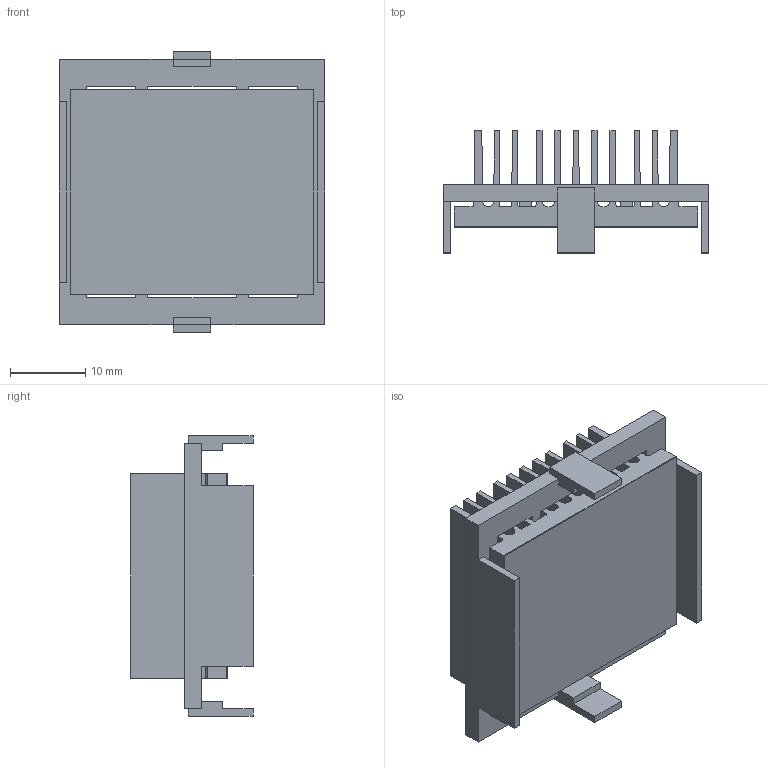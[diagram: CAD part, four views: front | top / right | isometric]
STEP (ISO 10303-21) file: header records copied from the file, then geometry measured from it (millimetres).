
FILE_DESCRIPTION (( 'STEP AP214' ), '1' );
FILE_NAME ('INH33001-12.7-2.6Y.STEP', '2023-02-17T18:08:06', ( '' ), ( '' ), 'SwSTEP 2.0', 'SolidWorks 2020', '' );
FILE_SCHEMA (( 'AUTOMOTIVE_DESIGN' ));
Length unit declared in the file: millimetre
Products named in the file (1): INH33001-12.7-2.6Y
Bounding box: 35.2 x 16.2 x 37.2 mm (x, y, z)
Volume: 6482.9 mm3; surface area: 12480.8 mm2
Topology: 3 solids, 3 shells, 130 faces, 372 edges, 248 vertices
Faces by surface type: plane 112, cylinder 18
Entity records: 5678 total; most frequent: CARTESIAN_POINT 751, ORIENTED_EDGE 744, DIRECTION 670, EDGE_CURVE 372, VECTOR 336, LINE 336, VERTEX_POINT 248, AXIS2_PLACEMENT_3D 167
